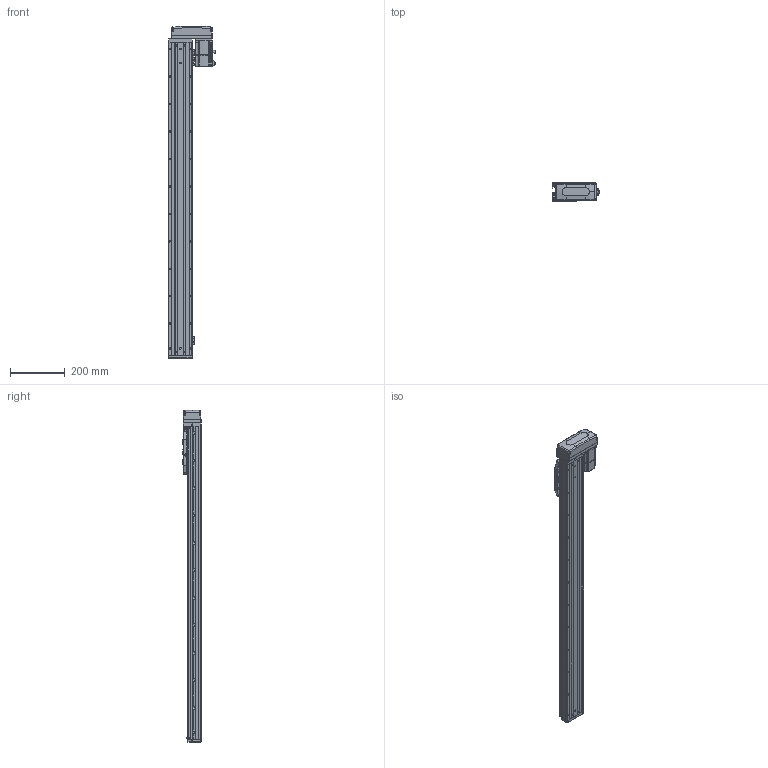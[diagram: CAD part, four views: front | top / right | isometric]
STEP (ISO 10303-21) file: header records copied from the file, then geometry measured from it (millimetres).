
FILE_DESCRIPTION (( 'STEP AP203' ), '1' );
FILE_NAME ('CTHA86-950-BL-M20-C4L.step', '2022-04-26T00:53:03', ( '微软用户' ), ( '微软中国' ), 'SwSTEP 2.0', 'SolidWorks 2020', '' );
FILE_SCHEMA (( 'CONFIG_CONTROL_DESIGN' ));
Length unit declared in the file: millimetre
Products named in the file (21): GBT 70.3-M3℅6; KTHA86-005; GBT70.1 M5℅16; GBT 70.1-M3℅6; CTHA86-015-1_CTHA86-015-2; GB¨uT 70.2-M3¡Á5_M3¡Á6; GBT 70.1-M3×16; CTHA60-016; CTHA86-033; EE_SX911P_R; _X2_4E0983F1_X0_200W_1; CTHA86-950-BL-M20-C4L; CTHA60-017; CTHA86-002; CTHA60-021; CTHA86-031; KTHA86-001_1140; GBT77-2000 M3×3; CTHA86-030; KTHA86-004; GBT 70.1-M3×20
Assembly tree (66 placements, depth 2):
  CTHA86-950-BL-M20-C4L
    KTHA86-001_1140
    KTHA86-004
    KTHA86-005
    GB¨uT 70.2-M3¡Á5_M3¡Á6  x10
    EE_SX911P_R  x3
    CTHA60-017  x3
    CTHA60-021  x2
    GBT77-2000 M3×3  x6
    GBT 70.1-M3×20
    GBT70.1 M5℅16  x14
    GBT 70.1-M3×16  x5
    GBT 70.1-M3℅6  x6
    CTHA60-016  x2
    _X2_4E0983F1_X0_200W_1
    CTHA86-002
    CTHA86-031
    CTHA86-030  x2
    GBT 70.3-M3℅6  x4
    CTHA86-015-1_CTHA86-015-2
    CTHA86-033
Bounding box: 172.7 x 68 x 1209 mm (x, y, z)
Volume: 4497415.9 mm3; surface area: 764961.5 mm2
Topology: 68 solids, 68 shells, 2846 faces, 6820 edges, 4204 vertices
Faces by surface type: plane 1499, cylinder 741, cone 375, torus 132, bspline 75, sphere 24
Entity records: 51019 total; most frequent: CARTESIAN_POINT 9843, DIRECTION 7959, ORIENTED_EDGE 7740, EDGE_CURVE 3870, AXIS2_PLACEMENT_3D 2704, VECTOR 2551, LINE 2551, VERTEX_POINT 2436
